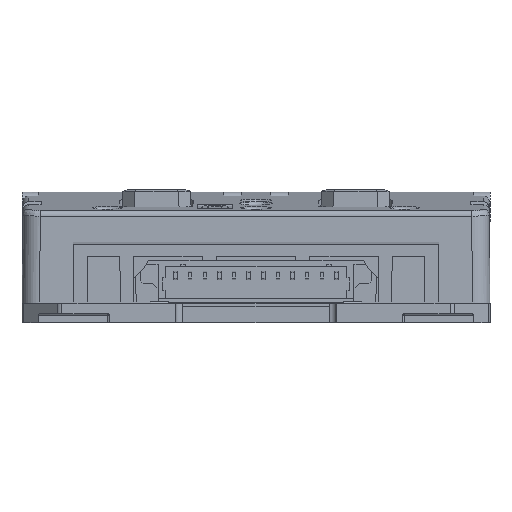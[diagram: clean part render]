
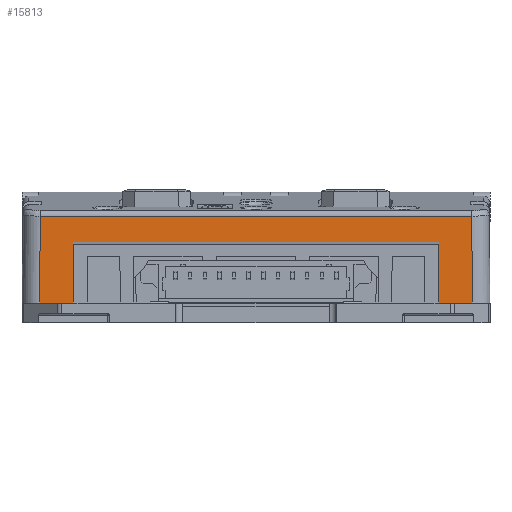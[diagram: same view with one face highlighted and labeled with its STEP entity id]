
A CAD part, front view. The second image highlights one B-rep face of the part: STEP entity #15813.
In plain terms, the highlighted planar face has unit normal (0, -1, 0.009).
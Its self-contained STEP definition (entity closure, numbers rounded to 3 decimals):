
#1237=FACE_OUTER_BOUND('',#2093,.T.);
#2093=EDGE_LOOP('',(#12950,#12951,#12952,#12953,#12954,#12955,#12956,#12957));
#2499=LINE('',#21367,#4303);
#2511=LINE('',#21407,#4315);
#3831=LINE('',#25956,#5635);
#3832=LINE('',#25957,#5636);
#3833=LINE('',#25959,#5637);
#3834=LINE('',#25961,#5638);
#3835=LINE('',#25962,#5639);
#3836=LINE('',#25963,#5640);
#4303=VECTOR('',#17392,2.9);
#4315=VECTOR('',#17420,2.9);
#5635=VECTOR('',#20270,31.2);
#5636=VECTOR('',#20271,5.2);
#5637=VECTOR('',#20272,7.43);
#5638=VECTOR('',#20273,36.87);
#5639=VECTOR('',#20274,7.43);
#5640=VECTOR('',#20275,5.2);
#6076=VERTEX_POINT('',#21364);
#6077=VERTEX_POINT('',#21366);
#6096=VERTEX_POINT('',#21404);
#6097=VERTEX_POINT('',#21406);
#7162=VERTEX_POINT('',#25954);
#7163=VERTEX_POINT('',#25955);
#7164=VERTEX_POINT('',#25958);
#7165=VERTEX_POINT('',#25960);
#7544=EDGE_CURVE('',#6076,#6077,#2499,.T.);
#7564=EDGE_CURVE('',#6096,#6097,#2511,.T.);
#9174=EDGE_CURVE('',#7162,#7163,#3831,.T.);
#9175=EDGE_CURVE('',#7163,#6097,#3832,.T.);
#9176=EDGE_CURVE('',#7164,#6096,#3833,.T.);
#9177=EDGE_CURVE('',#7165,#7164,#3834,.T.);
#9178=EDGE_CURVE('',#6077,#7165,#3835,.T.);
#9179=EDGE_CURVE('',#6076,#7162,#3836,.T.);
#12950=ORIENTED_EDGE('',*,*,#9174,.T.);
#12951=ORIENTED_EDGE('',*,*,#9175,.T.);
#12952=ORIENTED_EDGE('',*,*,#7564,.F.);
#12953=ORIENTED_EDGE('',*,*,#9176,.F.);
#12954=ORIENTED_EDGE('',*,*,#9177,.F.);
#12955=ORIENTED_EDGE('',*,*,#9178,.F.);
#12956=ORIENTED_EDGE('',*,*,#7544,.F.);
#12957=ORIENTED_EDGE('',*,*,#9179,.T.);
#14301=PLANE('',#16842);
#15813=ADVANCED_FACE('',(#1237),#14301,.T.);
#16842=AXIS2_PLACEMENT_3D('',#25953,#20268,#20269);
#17392=DIRECTION('',(-1.,0.,0.));
#17420=DIRECTION('',(-1.,0.,0.));
#20268=DIRECTION('center_axis',(0.,-1.,0.009));
#20269=DIRECTION('ref_axis',(0.,-0.009,-1.));
#20270=DIRECTION('',(1.,0.,0.));
#20271=DIRECTION('',(0.,-0.009,-1.));
#20272=DIRECTION('',(0.009,-0.009,-1.));
#20273=DIRECTION('',(1.,0.,0.));
#20274=DIRECTION('',(0.009,0.009,1.));
#20275=DIRECTION('',(0.,0.009,1.));
#21364=CARTESIAN_POINT('',(-15.6,-16.7,1.7));
#21366=CARTESIAN_POINT('',(-18.5,-16.7,1.7));
#21367=CARTESIAN_POINT('',(0.,-16.7,1.7));
#21404=CARTESIAN_POINT('',(18.5,-16.7,1.7));
#21406=CARTESIAN_POINT('',(15.6,-16.7,1.7));
#21407=CARTESIAN_POINT('',(0.,-16.7,1.7));
#25953=CARTESIAN_POINT('Origin',(0.,-16.631,9.579));
#25954=CARTESIAN_POINT('',(-15.6,-16.655,6.9));
#25955=CARTESIAN_POINT('',(15.6,-16.655,6.9));
#25956=CARTESIAN_POINT('',(-1.7,-16.655,6.9));
#25957=CARTESIAN_POINT('',(15.6,-16.666,5.643));
#25958=CARTESIAN_POINT('',(18.435,-16.635,9.129));
#25959=CARTESIAN_POINT('',(18.437,-16.637,8.906));
#25960=CARTESIAN_POINT('',(-18.435,-16.635,9.129));
#25961=CARTESIAN_POINT('',(0.,-16.635,9.129));
#25962=CARTESIAN_POINT('',(-18.437,-16.637,8.906));
#25963=CARTESIAN_POINT('',(-15.6,-16.666,5.643));
